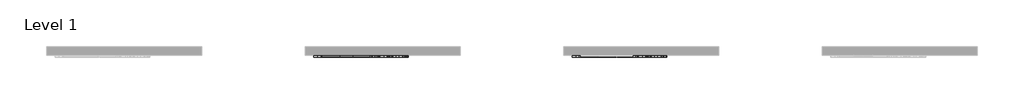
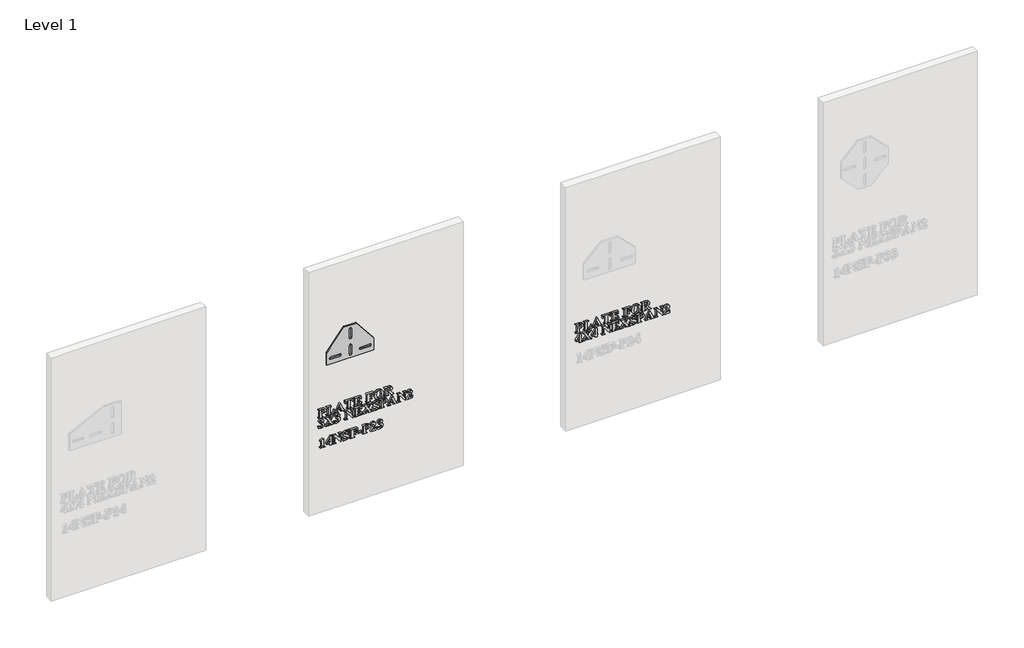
# One storey, part 15 of 21: 4 proxies.
"""IFC4 building model written with IfcOpenShell, lengths in millimetres."""

from ifc_helpers import new_model, si_unit, frame, origin, place, context, project, spatial, polyline, outline, extrude, transform, mapped, element, save
from components import generic_models_c3e818f0

model = new_model("IFC4")

# Units and contexts
model_context = context("Model", 3, world=origin())
ifc_project = project(units=[si_unit("LENGTHUNIT", "METRE", prefix="MILLI")], contexts=[model_context])

# Site, building, storey
site = spatial("IfcSite", under=ifc_project)
building = spatial("IfcBuilding", under=site)
storey = spatial("IfcBuildingStorey", under=building, Name="Level 1", Elevation=0.0)

# Proxies
placement = place(None, origin())
element("IfcBuildingElementProxy", 1, Name="2\"\" Arial", ObjectType="2\"\" Arial", at=placement, inside=storey, context=model_context, shape_type="SweptSolid", body=[
    extrude(outline(polyline([(624.2127681, 23780.7890158), (625.1268914, 23794.043803), (630.022991, 23803.1781105), (638.6586857, 23806.4952699), (648.6032388, 23801.4468164), (652.5782899, 23784.7917676), (652.5782899, 23761.2877195), (650.8054448, 23761.2877195), (650.2029545, 23766.0730163), (648.5963136, 23767.8666369), (643.7140644, 23768.3791), (609.1435847, 23768.3791), (604.2751858, 23767.8666369), (602.6685449, 23766.0937918), (602.0522042, 23761.2877195), (600.2793591, 23761.2877195), (600.2793591, 23787.8803962), (602.0522042, 23787.8803962), (602.6546946, 23783.1089498), (604.2613354, 23781.3014788), (609.1435847, 23780.7890158), (624.2127681, 23780.7890158)]), holes=[polyline([(649.9190223, 23780.7890158), (649.9190223, 23782.5757112), (647.1628021, 23791.1975556), (638.4786311, 23794.0853541), (629.6421063, 23791.1975556), (626.7889337, 23782.9773714), (626.8720358, 23780.7890158), (649.9190223, 23780.7890158)])]), frame((0.0, -15490.3579358, 0.0), z_axis=(0.0, 1.0, 0.0), x_axis=(0.0, 0.0, 1.0)), (0.0, 0.0, 1.0), 12.7),
    extrude(outline(polyline([(619.7806553, 23857.9077782), (619.7806553, 23856.1349331), (610.1269597, 23852.3399365), (605.3416629, 23847.5892656), (603.8250493, 23840.7194908), (603.8250493, 23836.4120312), (604.1713081, 23831.7998638), (605.7848742, 23829.999318), (610.8333277, 23829.5422564), (643.7140644, 23829.5422564), (648.298531, 23829.9162159), (650.0436754, 23831.3289518), (650.8054448, 23834.597635), (650.8054448, 23836.6336368), (652.5782899, 23836.6336368), (652.5782899, 23810.0409601), (650.8054448, 23810.0409601), (650.8054448, 23811.7168528), (650.0990768, 23815.0686381), (648.4439597, 23816.7237552), (643.7140644, 23817.1323406), (609.1435847, 23817.1323406), (604.559118, 23816.7306804), (602.8139736, 23815.2348423), (602.0522042, 23811.7168528), (602.0522042, 23810.0409601), (600.2793591, 23810.0409601), (600.2793591, 23856.1349331), (619.7806553, 23857.9077782)])), frame((0.0, -15490.3579358, 0.0), z_axis=(0.0, 1.0, 0.0), x_axis=(0.0, 0.0, 1.0)), (0.0, 0.0, 1.0), 12.7),
    extrude(outline(polyline([(615.3485426, 23892.8660677), (608.7003734, 23895.7884921), (604.559118, 23897.1735273), (602.869375, 23896.3286558), (602.0522042, 23891.0101205), (600.2793591, 23891.0101205), (600.2793591, 23916.4116669), (602.0522042, 23916.4116669), (603.4095388, 23912.7136228), (610.9025794, 23908.28151), (653.4647125, 23888.6278599), (612.066009, 23869.8052309), (604.3375124, 23865.3384922), (602.0522042, 23860.7193997), (600.2793591, 23860.7193997), (600.2793591, 23878.4894019), (602.0522042, 23878.4894019), (602.9386268, 23873.3647715), (606.0272554, 23871.5919264), (610.0300072, 23872.6722539), (615.3485426, 23875.0822152), (615.3485426, 23892.8660677)]), holes=[polyline([(618.8942328, 23891.3148283), (618.8942328, 23876.6888561), (635.2376487, 23884.0987946), (618.8942328, 23891.3148283)])]), frame((0.0, -15490.3579358, 0.0), z_axis=(0.0, 1.0, 0.0), x_axis=(0.0, 0.0, 1.0)), (0.0, 0.0, 1.0), 12.7),
    extrude(outline(polyline([(652.5782899, 23966.05133), (652.5782899, 23919.9573571), (637.5091065, 23919.9573571), (637.5091065, 23921.7302022), (646.7195908, 23925.8299065), (649.0325997, 23933.2536955), (649.0325997, 23936.7993857), (609.1435847, 23936.7993857), (604.559118, 23936.3977255), (602.8139736, 23934.8741867), (602.0522042, 23931.3700475), (602.0522042, 23929.7080052), (600.2793591, 23929.7080052), (600.2793591, 23956.3006819), (602.0522042, 23956.3006819), (602.0522042, 23954.65249), (602.7585722, 23951.2868543), (604.4136893, 23949.6317372), (609.1435847, 23949.2093015), (649.0325997, 23949.2093015), (649.0325997, 23952.7549917), (648.3123814, 23957.6857172), (644.7874667, 23961.646918), (637.5091065, 23964.2784849), (637.5091065, 23966.05133), (652.5782899, 23966.05133)])), frame((0.0, -15490.3579358, 0.0), z_axis=(0.0, 1.0, 0.0), x_axis=(0.0, 0.0, 1.0)), (0.0, 0.0, 1.0), 12.7),
    extrude(outline(polyline([(649.0325997, 23990.8711616), (649.0325997, 23995.3032744), (648.3400821, 24003.3364788), (644.7320653, 24009.0289737), (636.6226839, 24012.145303), (636.6226839, 24013.9181481), (652.5782899, 24013.9181481), (652.5782899, 23971.3698654), (650.8054448, 23971.3698654), (650.8054448, 23973.045758), (649.7805187, 23976.896156), (647.827619, 23978.2811912), (643.7140644, 23978.4612458), (609.1435847, 23978.4612458), (604.559118, 23978.0595856), (602.8139736, 23976.5637475), (602.0522042, 23973.045758), (602.0522042, 23971.3698654), (600.2793591, 23971.3698654), (600.2793591, 24015.1785302), (616.8859317, 24016.1203541), (606.4427659, 24010.0054235), (602.9386268, 23998.6827604), (602.9386268, 23995.6633836), (603.5549675, 23992.5470543), (605.1339076, 23991.2243456), (610.4039667, 23990.8711616), (625.0991907, 23990.8711616), (624.0950401, 23995.878064), (620.1753904, 23998.9112912), (612.6892749, 24000.6218097), (612.6892749, 24002.3946548), (640.1683741, 24002.3946548), (640.1683741, 24000.6218097), (630.9024884, 23998.1148959), (627.7584584, 23990.8711616), (649.0325997, 23990.8711616)])), frame((0.0, -15490.3579358, 0.0), z_axis=(0.0, 1.0, 0.0), x_axis=(0.0, 0.0, 1.0)), (0.0, 0.0, 1.0), 12.7),
    extrude(outline(polyline([(649.0325997, 24062.6713887), (649.0325997, 24067.1035015), (648.4370346, 24075.6630193), (644.7251401, 24082.0757325), (636.6226839, 24084.8319526), (636.6226839, 24086.6047977), (652.5782899, 24086.6047977), (652.5782899, 24043.1700924), (650.8054448, 24043.1700924), (650.8054448, 24044.8459851), (650.0990768, 24048.1977704), (648.4439597, 24049.8528875), (643.7140644, 24050.2614729), (609.1435847, 24050.2614729), (604.559118, 24049.8598127), (602.8139736, 24048.3639746), (602.0522042, 24044.8459851), (602.0522042, 24043.1700924), (600.2793591, 24043.1700924), (600.2793591, 24069.7627691), (602.0522042, 24069.7627691), (602.0522042, 24068.1007268), (602.7585722, 24064.7558667), (604.4136893, 24063.0938244), (609.1435847, 24062.6713887), (625.0991907, 24062.6713887), (625.0991907, 24064.4442338), (622.6823042, 24071.3555597), (612.6892749, 24075.0813045), (612.6892749, 24076.8541496), (641.0547967, 24076.8541496), (641.0547967, 24075.0813045), (633.6725588, 24073.2253572), (629.7944602, 24069.7419936), (628.6448809, 24064.4442338), (628.6448809, 24062.6713887), (649.0325997, 24062.6713887)])), frame((0.0, -15490.3579358, 0.0), z_axis=(0.0, 1.0, 0.0), x_axis=(0.0, 0.0, 1.0)), (0.0, 0.0, 1.0), 12.7),
    extrude(outline(polyline([(653.4647125, 24119.0561735), (651.8788471, 24108.514324), (646.1794271, 24099.7695577), (637.4606302, 24093.8848892), (626.8166344, 24091.923333), (617.1733265, 24093.4295589), (608.9358294, 24097.9482364), (601.7786598, 24107.1656459), (599.3929366, 24119.5547862), (601.8929252, 24131.9127631), (609.392891, 24141.1197849), (626.8581854, 24146.8815315), (637.4969874, 24144.9494074), (646.2002026, 24139.1530349), (651.884041, 24130.2645712), (653.4647125, 24119.0561735)]), holes=[polyline([(650.8054448, 24119.5132351), (648.6863409, 24126.1267784), (641.4356814, 24130.8497486), (625.9440622, 24132.6987706), (611.8444034, 24130.8843745), (603.9774032, 24125.8151455), (602.0522042, 24119.4439833), (606.5120177, 24110.6213088), (626.2487699, 24106.1060939), (643.4924587, 24109.0285183), (648.9771983, 24113.4502433), (650.8054448, 24119.5132351)])]), frame((0.0, -15490.3579358, 0.0), z_axis=(0.0, 1.0, 0.0), x_axis=(0.0, 0.0, 1.0)), (0.0, 0.0, 1.0), 12.7),
    extrude(outline(polyline([(624.2127681, 24170.8149406), (624.2127681, 24174.249828), (600.2793591, 24191.0364551), (600.2793591, 24207.1582654), (602.0522042, 24207.1582654), (603.3956884, 24203.8895822), (607.7723998, 24200.7455522), (625.4592998, 24188.3356364), (628.9911397, 24195.2885133), (638.395529, 24199.1804624), (646.5326111, 24196.417317), (651.2902072, 24189.2843855), (652.5782899, 24175.4825093), (652.5782899, 24151.3136443), (650.8054448, 24151.3136443), (650.2029545, 24156.0989411), (648.5963136, 24157.8925617), (643.7140644, 24158.4050248), (609.1435847, 24158.4050248), (604.2751858, 24157.8925617), (602.6685449, 24156.1197166), (602.0522042, 24151.3136443), (600.2793591, 24151.3136443), (600.2793591, 24177.906321), (602.0522042, 24177.906321), (602.6546946, 24173.1210242), (604.2613354, 24171.3274036), (609.1435847, 24170.8149406), (624.2127681, 24170.8149406)]), holes=[polyline([(649.9190223, 24170.8149406), (649.9190223, 24174.9423456), (647.0450741, 24183.9727754), (638.160073, 24186.7705466), (631.4288018, 24185.2470078), (627.862336, 24181.0572762), (626.8720358, 24173.0171466), (626.8720358, 24170.8149406), (649.9190223, 24170.8149406)])]), frame((0.0, -15490.3579358, 0.0), z_axis=(0.0, 1.0, 0.0), x_axis=(0.0, 0.0, 1.0)), (0.0, 0.0, 1.0), 12.7),
    extrude(outline(polyline([(564.5485426, 23770.1519451), (558.3782106, 23782.0424727), (548.6206373, 23786.1075511), (542.8796662, 23784.0022975), (540.6151335, 23778.9607692), (543.7314628, 23771.7031846), (547.1524999, 23767.20182), (547.706514, 23764.7364573), (546.2176011, 23761.7101553), (542.6234346, 23760.401297), (537.9004645, 23762.6589044), (535.2965982, 23772.6034575), (536.8114805, 23781.779316), (541.3561274, 23788.8914719), (548.0648919, 23793.4517005), (556.0721269, 23794.9717767), (564.6177943, 23792.1324544), (570.3518402, 23783.8914947), (574.5554222, 23790.2765072), (579.5207736, 23792.312509), (586.4182491, 23788.6767915), (589.3683741, 23779.4455316), (586.9237869, 23769.4940533), (579.105263, 23763.0605646), (584.0498388, 23772.4511036), (581.6883537, 23778.39983), (576.0304847, 23780.7890158), (571.3282901, 23779.5078582), (567.8795523, 23776.4677058), (564.5485426, 23770.1519451)])), frame((0.0, -15490.3579358, 0.0), z_axis=(0.0, 1.0, 0.0), x_axis=(0.0, 0.0, 1.0)), (0.0, 0.0, 1.0), 12.7),
    extrude(outline(polyline([(566.5845444, 23832.5062318), (578.4681468, 23841.9937232), (584.2021927, 23847.0075508), (586.1481672, 23849.9715262), (586.7091065, 23853.6280193), (588.4819516, 23853.6280193), (588.4819516, 23834.1959748), (586.7091065, 23834.1959748), (586.2243441, 23837.6585629), (584.88086, 23839.3760066), (583.0110624, 23839.9715718), (575.9473826, 23835.7333639), (569.5069687, 23830.5810328), (579.146814, 23824.2514217), (584.3406962, 23821.3289974), (586.0304392, 23822.2154199), (586.7091065, 23826.6336823), (588.4819516, 23826.6336823), (588.4819516, 23801.0936324), (586.7091065, 23801.0936324), (585.9334867, 23803.8637029), (584.2021927, 23805.8997047), (579.0775623, 23809.6392999), (559.4377625, 23822.5478284), (546.8616425, 23812.4786222), (539.7425613, 23805.2764389), (537.9558659, 23799.8886518), (536.1830208, 23799.8886518), (536.1830208, 23820.2348195), (537.9558659, 23820.2348195), (538.1774715, 23816.9245853), (539.4655543, 23814.1891407), (541.4046036, 23813.2680922), (547.000146, 23816.8414832), (556.5291885, 23824.459177), (545.781315, 23831.5228568), (540.4627797, 23834.4868322), (538.8422884, 23833.6004096), (537.9558659, 23829.6807599), (536.1830208, 23829.6807599), (536.1830208, 23854.9715034), (537.9558659, 23854.9715034), (539.2993501, 23851.3704118), (545.6428115, 23846.2596318), (566.5845444, 23832.5062318)])), frame((0.0, -15490.3579358, 0.0), z_axis=(0.0, 1.0, 0.0), x_axis=(0.0, 0.0, 1.0)), (0.0, 0.0, 1.0), 12.7),
    extrude(outline(polyline([(564.5485426, 23865.8855812), (558.3782106, 23877.7761087), (548.6206373, 23881.8411872), (542.8796662, 23879.7359336), (540.6151335, 23874.6944053), (543.7314628, 23867.4368206), (547.1524999, 23862.9354561), (547.706514, 23860.4700934), (546.2176011, 23857.4437914), (542.6234346, 23856.1349331), (537.9004645, 23858.3925405), (535.2965982, 23868.3370936), (536.8114805, 23877.512952), (541.3561274, 23884.625108), (548.0648919, 23889.1853366), (556.0721269, 23890.7054127), (564.6177943, 23887.8660905), (570.3518402, 23879.6251308), (574.5554222, 23886.0101433), (579.5207736, 23888.0461451), (586.4182491, 23884.4104276), (589.3683741, 23875.1791677), (586.9237869, 23865.2276894), (579.105263, 23858.7942007), (584.0498388, 23868.1847397), (581.6883537, 23874.1334661), (576.0304847, 23876.5226518), (571.3282901, 23875.2414942), (567.8795523, 23872.2013419), (564.5485426, 23865.8855812)])), frame((0.0, -15490.3579358, 0.0), z_axis=(0.0, 1.0, 0.0), x_axis=(0.0, 0.0, 1.0)), (0.0, 0.0, 1.0), 12.7),
    extrude(outline(polyline([(588.4819516, 23934.61103), (588.4819516, 23916.1900612), (586.7091065, 23916.1900612), (586.1066161, 23919.8534795), (582.955661, 23923.5030473), (545.0472463, 23923.5030473), (539.5971326, 23921.9448827), (537.9558659, 23916.4116669), (536.1830208, 23916.4116669), (536.1830208, 23934.140118), (537.9558659, 23933.0459402), (539.4170781, 23928.8700589), (545.0472463, 23927.0487376), (578.4542964, 23927.0487376), (535.2965982, 23960.8712982), (535.2965982, 23962.5056398), (577.8448809, 23962.5056398), (583.2811442, 23963.1635316), (585.5664524, 23964.9987033), (586.7091065, 23969.5970203), (588.4819516, 23969.5970203), (588.4819516, 23951.8685691), (586.7091065, 23951.8685691), (584.4653494, 23957.6995675), (577.8448809, 23958.9599496), (557.4156111, 23958.9599496), (588.4819516, 23934.61103)])), frame((0.0, -15490.3579358, 0.0), z_axis=(0.0, 1.0, 0.0), x_axis=(0.0, 0.0, 1.0)), (0.0, 0.0, 1.0), 12.7),
    extrude(outline(polyline([(584.9362614, 23993.5304293), (584.9362614, 23997.9625421), (584.2437437, 24005.9957465), (580.6357269, 24011.6882413), (572.5263456, 24014.8045706), (572.5263456, 24016.5774157), (588.4819516, 24016.5774157), (588.4819516, 23974.029133), (586.7091065, 23974.029133), (586.7091065, 23975.7050257), (585.6841804, 23979.5554237), (583.7312807, 23980.9404589), (579.617726, 23981.1205135), (545.0472463, 23981.1205135), (540.4627797, 23980.7188533), (538.7176353, 23979.2230152), (537.9558659, 23975.7050257), (537.9558659, 23974.029133), (536.1830208, 23974.029133), (536.1830208, 24017.8377978), (552.7895933, 24018.7796218), (542.3464276, 24012.6646912), (538.8422884, 24001.3420281), (538.8422884, 23998.3226512), (539.4586291, 23995.2063219), (541.0375693, 23993.8836133), (546.3076284, 23993.5304293), (561.0028523, 23993.5304293), (559.9987018, 23998.5373317), (556.079052, 24001.5705589), (548.5929366, 24003.2810774), (548.5929366, 24005.0539225), (576.0720358, 24005.0539225), (576.0720358, 24003.2810774), (566.80615, 24000.7741636), (563.66212, 23993.5304293), (584.9362614, 23993.5304293)])), frame((0.0, -15490.3579358, 0.0), z_axis=(0.0, 1.0, 0.0), x_axis=(0.0, 0.0, 1.0)), (0.0, 0.0, 1.0), 12.7),
    extrude(outline(polyline([(566.5845444, 24056.7711385), (578.4681468, 24066.25863), (584.2021927, 24071.2724575), (586.1481672, 24074.236433), (586.7091065, 24077.892926), (588.4819516, 24077.892926), (588.4819516, 24058.4608815), (586.7091065, 24058.4608815), (586.2243441, 24061.9234696), (584.88086, 24063.6409134), (583.0110624, 24064.2364785), (575.9473826, 24059.9982707), (569.5069687, 24054.8459395), (579.146814, 24048.5163285), (584.3406962, 24045.5939041), (586.0304392, 24046.4803267), (586.7091065, 24050.8985891), (588.4819516, 24050.8985891), (588.4819516, 24025.3585392), (586.7091065, 24025.3585392), (585.9334867, 24028.1286097), (584.2021927, 24030.1646115), (579.0775623, 24033.9042067), (559.4377625, 24046.8127351), (546.8616425, 24036.7435289), (539.7425613, 24029.5413456), (537.9558659, 24024.1535585), (536.1830208, 24024.1535585), (536.1830208, 24044.4997263), (537.9558659, 24044.4997263), (538.1774715, 24041.189492), (539.4655543, 24038.4540474), (541.4046036, 24037.532999), (547.000146, 24041.1063899), (556.5291885, 24048.7240838), (545.781315, 24055.7877635), (540.4627797, 24058.7517389), (538.8422884, 24057.8653164), (537.9558659, 24053.9456666), (536.1830208, 24053.9456666), (536.1830208, 24079.2364102), (537.9558659, 24079.2364102), (539.2993501, 24075.6353186), (545.6428115, 24070.5245385), (566.5845444, 24056.7711385)])), frame((0.0, -15490.3579358, 0.0), z_axis=(0.0, 1.0, 0.0), x_axis=(0.0, 0.0, 1.0)), (0.0, 0.0, 1.0), 12.7),
    extrude(outline(polyline([(589.3683741, 24118.5160097), (589.3683741, 24116.7431646), (586.4320994, 24115.6351364), (585.8226839, 24114.0007948), (587.0622905, 24110.2404241), (588.7589586, 24105.6905834), (589.3683741, 24100.607504), (585.040139, 24088.6754254), (574.548497, 24083.94553), (567.9418789, 24085.5798716), (562.5056156, 24090.2612907), (556.5984403, 24101.1061167), (552.5541373, 24108.8623141), (549.2854542, 24112.1240721), (545.7259136, 24113.1974744), (540.2896503, 24110.5312815), (537.9558659, 24103.3637242), (542.2702507, 24092.511973), (554.7978944, 24085.7183751), (554.7978944, 24083.94553), (535.2965982, 24083.94553), (535.2965982, 24085.7183751), (537.9697162, 24087.5396965), (538.8422884, 24089.6795759), (537.9835666, 24092.7405038), (535.8575375, 24098.28757), (535.2965982, 24102.9759143), (539.9780173, 24116.0367966), (551.1691021, 24121.1752774), (560.2687837, 24118.5575608), (568.7174987, 24105.8706379), (573.2050128, 24096.7294053), (576.7645534, 24092.8097556), (579.8254813, 24091.923333), (584.6246284, 24094.3471447), (586.7091065, 24100.9260621), (582.5747763, 24110.9398669), (571.639923, 24116.7431646), (571.639923, 24118.5160097), (589.3683741, 24118.5160097)])), frame((0.0, -15490.3579358, 0.0), z_axis=(0.0, 1.0, 0.0), x_axis=(0.0, 0.0, 1.0)), (0.0, 0.0, 1.0), 12.7),
    extrude(outline(polyline([(560.1164298, 24144.2222639), (561.030553, 24157.4770512), (565.9266526, 24166.6113586), (574.5623474, 24169.928518), (584.5069004, 24164.8800645), (588.4819516, 24148.2250157), (588.4819516, 24124.7209676), (586.7091065, 24124.7209676), (586.1066161, 24129.5062644), (584.4999753, 24131.299885), (579.617726, 24131.8123481), (545.0472463, 24131.8123481), (540.1788474, 24131.299885), (538.5722066, 24129.5270399), (537.9558659, 24124.7209676), (536.1830208, 24124.7209676), (536.1830208, 24151.3136443), (537.9558659, 24151.3136443), (538.5583562, 24146.5421979), (540.1649971, 24144.7347269), (545.0472463, 24144.2222639), (560.1164298, 24144.2222639)]), holes=[polyline([(585.8226839, 24144.2222639), (585.8226839, 24146.0089593), (583.0664638, 24154.6308037), (574.3822928, 24157.5186022), (565.5457679, 24154.6308037), (562.6925953, 24146.4106195), (562.7756975, 24144.2222639), (585.8226839, 24144.2222639)])]), frame((0.0, -15490.3579358, 0.0), z_axis=(0.0, 1.0, 0.0), x_axis=(0.0, 0.0, 1.0)), (0.0, 0.0, 1.0), 12.7),
    extrude(outline(polyline([(551.2522042, 24204.000385), (544.604035, 24206.9228094), (540.4627797, 24208.3078446), (538.7730367, 24207.4629731), (537.9558659, 24202.1444378), (536.1830208, 24202.1444378), (536.1830208, 24227.5459842), (537.9558659, 24227.5459842), (539.3132004, 24223.8479401), (546.8062411, 24219.4158273), (589.3683741, 24199.7621772), (547.9696707, 24180.9395482), (540.241174, 24176.4728095), (537.9558659, 24171.853717), (536.1830208, 24171.853717), (536.1830208, 24189.6237192), (537.9558659, 24189.6237192), (538.8422884, 24184.4990888), (541.930917, 24182.7262437), (545.9336689, 24183.8065711), (551.2522042, 24186.2165325), (551.2522042, 24204.000385)]), holes=[polyline([(554.7978944, 24202.4491455), (554.7978944, 24187.8231734), (571.1413103, 24195.2331119), (554.7978944, 24202.4491455)])]), frame((0.0, -15490.3579358, 0.0), z_axis=(0.0, 1.0, 0.0), x_axis=(0.0, 0.0, 1.0)), (0.0, 0.0, 1.0), 12.7),
    extrude(outline(polyline([(588.4819516, 24247.5181924), (588.4819516, 24229.0972236), (586.7091065, 24229.0972236), (586.1066161, 24232.7606419), (582.955661, 24236.4102097), (545.0472463, 24236.4102097), (539.5971326, 24234.8520451), (537.9558659, 24229.3188293), (536.1830208, 24229.3188293), (536.1830208, 24247.0472804), (537.9558659, 24245.9531026), (539.4170781, 24241.7772213), (545.0472463, 24239.9558999), (578.4542964, 24239.9558999), (535.2965982, 24273.7784606), (535.2965982, 24275.4128022), (577.8448809, 24275.4128022), (583.2811442, 24276.0706939), (585.5664524, 24277.9058656), (586.7091065, 24282.5041827), (588.4819516, 24282.5041827), (588.4819516, 24264.7757315), (586.7091065, 24264.7757315), (584.4653494, 24270.6067299), (577.8448809, 24271.867112), (557.4156111, 24271.867112), (588.4819516, 24247.5181924)])), frame((0.0, -15490.3579358, 0.0), z_axis=(0.0, 1.0, 0.0), x_axis=(0.0, 0.0, 1.0)), (0.0, 0.0, 1.0), 12.7),
    extrude(outline(polyline([(536.1830208, 24316.5899), (551.2522042, 24318.2103913), (548.1635756, 24316.1120629), (547.1247992, 24314.076061), (546.8200914, 24308.7228998), (546.8200914, 24297.5595158), (566.3906394, 24314.2768912), (576.6260499, 24317.0746624), (582.5609259, 24315.1840892), (587.5470528, 24309.9555812), (589.3683741, 24302.5733433), (585.864235, 24292.5803141), (574.548497, 24287.5595613), (579.0152357, 24291.7285174), (580.5041486, 24297.3102094), (577.8241054, 24303.7852492), (571.0997593, 24306.4375917), (559.7286199, 24303.3351127), (536.1830208, 24285.1634503), (536.1830208, 24316.5899)])), frame((0.0, -15490.3579358, 0.0), z_axis=(0.0, 1.0, 0.0), x_axis=(0.0, 0.0, 1.0)), (0.0, 0.0, 1.0), 12.7),
])
element("IfcBuildingElementProxy", 2, Name="2\"\" Arial", ObjectType="2\"\" Arial", at=placement, inside=storey, context=model_context, shape_type="SweptSolid", body=[
    extrude(outline(polyline([(463.8692305, 23790.9409375), (455.0050049, 23771.1834097), (453.2321598, 23771.8482267), (454.4648412, 23776.4049926), (453.827725, 23778.4825455), (452.3111114, 23779.7152269), (447.9136245, 23780.0476353), (421.3209478, 23780.0476353), (415.2544934, 23779.5282471), (413.2046413, 23777.5407215), (412.4567222, 23771.1834097), (410.6838771, 23771.1834097), (410.6838771, 23799.5489316), (412.4567222, 23798.3162502), (413.273893, 23793.8425863), (415.3791466, 23792.0074146), (421.3209478, 23791.5711285), (463.8692305, 23790.9409375)])), frame((0.0, -15490.3579358, 0.0), z_axis=(0.0, 1.0, 0.0), x_axis=(0.0, 0.0, 1.0)), (0.0, 0.0, 1.0), 12.7),
    extrude(outline(polyline([(430.1851733, 23808.4131571), (422.2073703, 23808.4131571), (422.2073703, 23827.0280308), (410.6838771, 23827.0280308), (410.6838771, 23838.551524), (422.2073703, 23838.551524), (422.2073703, 23842.9836368), (430.1851733, 23842.9836368), (430.1851733, 23838.551524), (463.8692305, 23838.551524), (463.8692305, 23833.440744), (430.1851733, 23808.4131571)]), holes=[polyline([(430.1851733, 23811.1001255), (451.6116686, 23827.0280308), (430.1851733, 23827.0280308), (430.1851733, 23811.1001255)])]), frame((0.0, -15490.3579358, 0.0), z_axis=(0.0, 1.0, 0.0), x_axis=(0.0, 0.0, 1.0)), (0.0, 0.0, 1.0), 12.7),
    extrude(outline(polyline([(462.9828079, 23865.6151127), (462.9828079, 23847.194144), (461.2099628, 23847.194144), (460.6074725, 23850.8575622), (457.4565173, 23854.50713), (419.5481027, 23854.50713), (414.097989, 23852.9489654), (412.4567222, 23847.4157496), (410.6838771, 23847.4157496), (410.6838771, 23865.1442007), (412.4567222, 23864.0500229), (413.9179344, 23859.8741416), (419.5481027, 23858.0528203), (452.9551528, 23858.0528203), (409.7974546, 23891.8753809), (409.7974546, 23893.5097225), (452.3457373, 23893.5097225), (457.7820006, 23894.1676143), (460.0673087, 23896.002786), (461.2099628, 23900.601103), (462.9828079, 23900.601103), (462.9828079, 23882.8726518), (461.2099628, 23882.8726518), (458.9662057, 23888.7036502), (452.3457373, 23889.9640323), (431.9164674, 23889.9640323), (462.9828079, 23865.6151127)])), frame((0.0, -15490.3579358, 0.0), z_axis=(0.0, 1.0, 0.0), x_axis=(0.0, 0.0, 1.0)), (0.0, 0.0, 1.0), 12.7),
    extrude(outline(polyline([(463.8692305, 23941.3765406), (463.8692305, 23939.6036955), (460.9329558, 23938.4956673), (460.3235403, 23936.8613257), (461.5631468, 23933.100955), (463.259815, 23928.5511142), (463.8692305, 23923.4680349), (459.5409954, 23911.5359562), (449.0493534, 23906.8060609), (442.4427353, 23908.4404025), (437.0064719, 23913.1218216), (431.0992966, 23923.9666475), (427.0549937, 23931.7228449), (423.7863105, 23934.9846029), (420.2267699, 23936.0580052), (414.7905066, 23933.3918124), (412.4567222, 23926.224255), (416.771107, 23915.3725039), (429.2987508, 23908.578906), (429.2987508, 23906.8060609), (409.7974546, 23906.8060609), (409.7974546, 23908.578906), (412.4705726, 23910.4002273), (413.3431448, 23912.5401068), (412.4844229, 23915.6010347), (410.3583938, 23921.1481008), (409.7974546, 23925.8364451), (414.4788737, 23938.8973275), (425.6699585, 23944.0358082), (434.76964, 23941.4180916), (443.218355, 23928.7311688), (447.7058692, 23919.5899362), (451.2654098, 23915.6702864), (454.3263377, 23914.7838639), (459.1254848, 23917.2076756), (461.2099628, 23923.786593), (457.0756326, 23933.8003978), (446.1407794, 23939.6036955), (446.1407794, 23941.3765406), (463.8692305, 23941.3765406)])), frame((0.0, -15490.3579358, 0.0), z_axis=(0.0, 1.0, 0.0), x_axis=(0.0, 0.0, 1.0)), (0.0, 0.0, 1.0), 12.7),
    extrude(outline(polyline([(459.4371177, 23967.9692173), (459.4371177, 23972.40133), (458.8415526, 23980.9608478), (455.1296581, 23987.373561), (447.0272019, 23990.1297812), (447.0272019, 23991.9026263), (462.9828079, 23991.9026263), (462.9828079, 23948.467921), (461.2099628, 23948.467921), (461.2099628, 23950.1438137), (460.5035948, 23953.495599), (458.8484777, 23955.1507161), (454.1185824, 23955.5593015), (419.5481027, 23955.5593015), (414.963636, 23955.1576412), (413.2184916, 23953.6618032), (412.4567222, 23950.1438137), (412.4567222, 23948.467921), (410.6838771, 23948.467921), (410.6838771, 23975.0605977), (412.4567222, 23975.0605977), (412.4567222, 23973.3985554), (413.1630902, 23970.0536953), (414.8182073, 23968.391653), (419.5481027, 23967.9692173), (435.5037087, 23967.9692173), (435.5037087, 23969.7420624), (433.0868222, 23976.6533882), (423.0937929, 23980.379133), (423.0937929, 23982.1519782), (451.4593147, 23982.1519782), (451.4593147, 23980.379133), (444.0770768, 23978.5231858), (440.1989782, 23975.0398222), (439.0493989, 23969.7420624), (439.0493989, 23967.9692173), (459.4371177, 23967.9692173)])), frame((0.0, -15490.3579358, 0.0), z_axis=(0.0, 1.0, 0.0), x_axis=(0.0, 0.0, 1.0)), (0.0, 0.0, 1.0), 12.7),
    extrude(outline(polyline([(24017.6088804, -15490.3579358), (23995.4483165, -15490.3579358), (23995.4483165, -15477.6579358), (24017.6088804, -15477.6579358), (24017.6088804, -15490.3579358)])), frame((0.0, 0.0, 424.866638), z_axis=(0.0, 0.0, 1.0), x_axis=(1.0, 0.0, 0.0)), (0.0, 0.0, 1.0), 7.977803),
    extrude(outline(polyline([(434.6172861, 24041.5422894), (435.5314094, 24054.7970767), (440.427509, 24063.9313842), (449.0632037, 24067.2485436), (459.0077568, 24062.2000901), (462.9828079, 24045.5450413), (462.9828079, 24022.0409932), (461.2099628, 24022.0409932), (460.6074725, 24026.82629), (459.0008316, 24028.6199106), (454.1185824, 24029.1323736), (419.5481027, 24029.1323736), (414.6797038, 24028.6199106), (413.0730629, 24026.8470655), (412.4567222, 24022.0409932), (410.6838771, 24022.0409932), (410.6838771, 24048.6336699), (412.4567222, 24048.6336699), (413.0592126, 24043.8622235), (414.6658534, 24042.0547525), (419.5481027, 24041.5422894), (434.6172861, 24041.5422894)]), holes=[polyline([(460.3235403, 24041.5422894), (460.3235403, 24043.3289849), (457.5673201, 24051.9508293), (448.8831491, 24054.8386278), (440.0466243, 24051.9508293), (437.1934517, 24043.7306451), (437.2765538, 24041.5422894), (460.3235403, 24041.5422894)])]), frame((0.0, -15490.3579358, 0.0), z_axis=(0.0, 1.0, 0.0), x_axis=(0.0, 0.0, 1.0)), (0.0, 0.0, 1.0), 12.7),
    extrude(outline(polyline([(410.6838771, 24100.4478384), (425.7530606, 24102.0683296), (422.664432, 24099.9700012), (421.6256555, 24097.9339994), (421.3209478, 24092.5808382), (421.3209478, 24081.4174541), (440.8914958, 24098.1348295), (451.1269062, 24100.9326007), (457.0617823, 24099.0420276), (462.0479091, 24093.8135196), (463.8692305, 24086.4312817), (460.3650913, 24076.4382524), (449.0493534, 24071.4174997), (453.516092, 24075.5864557), (455.0050049, 24081.1681478), (452.3249617, 24087.6431875), (445.6006156, 24090.29553), (434.2294763, 24087.1930511), (410.6838771, 24069.0213887), (410.6838771, 24100.4478384)])), frame((0.0, -15490.3579358, 0.0), z_axis=(0.0, 1.0, 0.0), x_axis=(0.0, 0.0, 1.0)), (0.0, 0.0, 1.0), 12.7),
    extrude(outline(polyline([(439.0493989, 24118.6610518), (432.8790669, 24130.5515794), (423.1214936, 24134.6166578), (417.3805225, 24132.5114043), (415.1159899, 24127.469876), (418.2323192, 24120.2122913), (421.6533562, 24115.7109268), (422.2073703, 24113.245564), (420.7184575, 24110.219262), (417.124291, 24108.9104037), (412.4013208, 24111.1680112), (409.7974546, 24121.1125642), (411.3123369, 24130.2884227), (415.8569837, 24137.4005787), (422.5657482, 24141.9608072), (430.5729832, 24143.4808834), (439.1186507, 24140.6415612), (444.8526966, 24132.4006015), (449.0562786, 24138.7856139), (454.0216299, 24140.8216157), (460.9191054, 24137.1858982), (463.8692305, 24127.9546383), (461.4246433, 24118.0031601), (453.6061193, 24111.5696714), (458.5506952, 24120.9602103), (456.1892101, 24126.9089367), (450.5313411, 24129.2981225), (445.8291464, 24128.0169649), (442.3804087, 24124.9768125), (439.0493989, 24118.6610518)])), frame((0.0, -15490.3579358, 0.0), z_axis=(0.0, 1.0, 0.0), x_axis=(0.0, 0.0, 1.0)), (0.0, 0.0, 1.0), 12.7),
])
element("IfcBuildingElementProxy", 3, Name="2\"\" Arial", ObjectType="2\"\" Arial", at=placement, inside=storey, context=model_context, shape_type="SweptSolid", body=[
    extrude(outline(polyline([(624.2127681, 25304.7890158), (625.1268914, 25318.043803), (630.022991, 25327.1781105), (638.6586857, 25330.4952699), (648.6032388, 25325.4468164), (652.5782899, 25308.7917676), (652.5782899, 25285.2877195), (650.8054448, 25285.2877195), (650.2029545, 25290.0730163), (648.5963136, 25291.8666369), (643.7140644, 25292.3791), (609.1435847, 25292.3791), (604.2751858, 25291.8666369), (602.6685449, 25290.0937918), (602.0522042, 25285.2877195), (600.2793591, 25285.2877195), (600.2793591, 25311.8803962), (602.0522042, 25311.8803962), (602.6546946, 25307.1089498), (604.2613354, 25305.3014788), (609.1435847, 25304.7890158), (624.2127681, 25304.7890158)]), holes=[polyline([(649.9190223, 25304.7890158), (649.9190223, 25306.5757112), (647.1628021, 25315.1975556), (638.4786311, 25318.0853541), (629.6421063, 25315.1975556), (626.7889337, 25306.9773714), (626.8720358, 25304.7890158), (649.9190223, 25304.7890158)])]), frame((0.0, -15490.3579358, 0.0), z_axis=(0.0, 1.0, 0.0), x_axis=(0.0, 0.0, 1.0)), (0.0, 0.0, 1.0), 12.7),
    extrude(outline(polyline([(619.7806553, 25381.9077782), (619.7806553, 25380.1349331), (610.1269597, 25376.3399365), (605.3416629, 25371.5892656), (603.8250493, 25364.7194908), (603.8250493, 25360.4120312), (604.1713081, 25355.7998638), (605.7848742, 25353.999318), (610.8333277, 25353.5422564), (643.7140644, 25353.5422564), (648.298531, 25353.9162159), (650.0436754, 25355.3289518), (650.8054448, 25358.597635), (650.8054448, 25360.6336368), (652.5782899, 25360.6336368), (652.5782899, 25334.0409601), (650.8054448, 25334.0409601), (650.8054448, 25335.7168528), (650.0990768, 25339.0686381), (648.4439597, 25340.7237552), (643.7140644, 25341.1323406), (609.1435847, 25341.1323406), (604.559118, 25340.7306804), (602.8139736, 25339.2348423), (602.0522042, 25335.7168528), (602.0522042, 25334.0409601), (600.2793591, 25334.0409601), (600.2793591, 25380.1349331), (619.7806553, 25381.9077782)])), frame((0.0, -15490.3579358, 0.0), z_axis=(0.0, 1.0, 0.0), x_axis=(0.0, 0.0, 1.0)), (0.0, 0.0, 1.0), 12.7),
    extrude(outline(polyline([(615.3485426, 25416.8660677), (608.7003734, 25419.7884921), (604.559118, 25421.1735273), (602.869375, 25420.3286558), (602.0522042, 25415.0101205), (600.2793591, 25415.0101205), (600.2793591, 25440.4116669), (602.0522042, 25440.4116669), (603.4095388, 25436.7136228), (610.9025794, 25432.28151), (653.4647125, 25412.6278599), (612.066009, 25393.8052309), (604.3375124, 25389.3384922), (602.0522042, 25384.7193997), (600.2793591, 25384.7193997), (600.2793591, 25402.4894019), (602.0522042, 25402.4894019), (602.9386268, 25397.3647715), (606.0272554, 25395.5919264), (610.0300072, 25396.6722539), (615.3485426, 25399.0822152), (615.3485426, 25416.8660677)]), holes=[polyline([(618.8942328, 25415.3148283), (618.8942328, 25400.6888561), (635.2376487, 25408.0987946), (618.8942328, 25415.3148283)])]), frame((0.0, -15490.3579358, 0.0), z_axis=(0.0, 1.0, 0.0), x_axis=(0.0, 0.0, 1.0)), (0.0, 0.0, 1.0), 12.7),
    extrude(outline(polyline([(652.5782899, 25490.05133), (652.5782899, 25443.9573571), (637.5091065, 25443.9573571), (637.5091065, 25445.7302022), (646.7195908, 25449.8299065), (649.0325997, 25457.2536955), (649.0325997, 25460.7993857), (609.1435847, 25460.7993857), (604.559118, 25460.3977255), (602.8139736, 25458.8741867), (602.0522042, 25455.3700475), (602.0522042, 25453.7080052), (600.2793591, 25453.7080052), (600.2793591, 25480.3006819), (602.0522042, 25480.3006819), (602.0522042, 25478.65249), (602.7585722, 25475.2868543), (604.4136893, 25473.6317372), (609.1435847, 25473.2093015), (649.0325997, 25473.2093015), (649.0325997, 25476.7549917), (648.3123814, 25481.6857172), (644.7874667, 25485.646918), (637.5091065, 25488.2784849), (637.5091065, 25490.05133), (652.5782899, 25490.05133)])), frame((0.0, -15490.3579358, 0.0), z_axis=(0.0, 1.0, 0.0), x_axis=(0.0, 0.0, 1.0)), (0.0, 0.0, 1.0), 12.7),
    extrude(outline(polyline([(649.0325997, 25514.8711616), (649.0325997, 25519.3032744), (648.3400821, 25527.3364788), (644.7320653, 25533.0289737), (636.6226839, 25536.145303), (636.6226839, 25537.9181481), (652.5782899, 25537.9181481), (652.5782899, 25495.3698654), (650.8054448, 25495.3698654), (650.8054448, 25497.045758), (649.7805187, 25500.896156), (647.827619, 25502.2811912), (643.7140644, 25502.4612458), (609.1435847, 25502.4612458), (604.559118, 25502.0595856), (602.8139736, 25500.5637475), (602.0522042, 25497.045758), (602.0522042, 25495.3698654), (600.2793591, 25495.3698654), (600.2793591, 25539.1785302), (616.8859317, 25540.1203541), (606.4427659, 25534.0054235), (602.9386268, 25522.6827604), (602.9386268, 25519.6633836), (603.5549675, 25516.5470543), (605.1339076, 25515.2243456), (610.4039667, 25514.8711616), (625.0991907, 25514.8711616), (624.0950401, 25519.878064), (620.1753904, 25522.9112912), (612.6892749, 25524.6218097), (612.6892749, 25526.3946548), (640.1683741, 25526.3946548), (640.1683741, 25524.6218097), (630.9024884, 25522.1148959), (627.7584584, 25514.8711616), (649.0325997, 25514.8711616)])), frame((0.0, -15490.3579358, 0.0), z_axis=(0.0, 1.0, 0.0), x_axis=(0.0, 0.0, 1.0)), (0.0, 0.0, 1.0), 12.7),
    extrude(outline(polyline([(649.0325997, 25586.6713887), (649.0325997, 25591.1035015), (648.4370346, 25599.6630193), (644.7251401, 25606.0757325), (636.6226839, 25608.8319526), (636.6226839, 25610.6047977), (652.5782899, 25610.6047977), (652.5782899, 25567.1700924), (650.8054448, 25567.1700924), (650.8054448, 25568.8459851), (650.0990768, 25572.1977704), (648.4439597, 25573.8528875), (643.7140644, 25574.2614729), (609.1435847, 25574.2614729), (604.559118, 25573.8598127), (602.8139736, 25572.3639746), (602.0522042, 25568.8459851), (602.0522042, 25567.1700924), (600.2793591, 25567.1700924), (600.2793591, 25593.7627691), (602.0522042, 25593.7627691), (602.0522042, 25592.1007268), (602.7585722, 25588.7558667), (604.4136893, 25587.0938244), (609.1435847, 25586.6713887), (625.0991907, 25586.6713887), (625.0991907, 25588.4442338), (622.6823042, 25595.3555597), (612.6892749, 25599.0813045), (612.6892749, 25600.8541496), (641.0547967, 25600.8541496), (641.0547967, 25599.0813045), (633.6725588, 25597.2253572), (629.7944602, 25593.7419936), (628.6448809, 25588.4442338), (628.6448809, 25586.6713887), (649.0325997, 25586.6713887)])), frame((0.0, -15490.3579358, 0.0), z_axis=(0.0, 1.0, 0.0), x_axis=(0.0, 0.0, 1.0)), (0.0, 0.0, 1.0), 12.7),
    extrude(outline(polyline([(653.4647125, 25643.0561735), (651.8788471, 25632.514324), (646.1794271, 25623.7695577), (637.4606302, 25617.8848892), (626.8166344, 25615.923333), (617.1733265, 25617.4295589), (608.9358294, 25621.9482364), (601.7786598, 25631.1656459), (599.3929366, 25643.5547862), (601.8929252, 25655.9127631), (609.392891, 25665.1197849), (626.8581854, 25670.8815315), (637.4969874, 25668.9494074), (646.2002026, 25663.1530349), (651.884041, 25654.2645712), (653.4647125, 25643.0561735)]), holes=[polyline([(650.8054448, 25643.5132351), (648.6863409, 25650.1267784), (641.4356814, 25654.8497486), (625.9440622, 25656.6987706), (611.8444034, 25654.8843745), (603.9774032, 25649.8151455), (602.0522042, 25643.4439833), (606.5120177, 25634.6213088), (626.2487699, 25630.1060939), (643.4924587, 25633.0285183), (648.9771983, 25637.4502433), (650.8054448, 25643.5132351)])]), frame((0.0, -15490.3579358, 0.0), z_axis=(0.0, 1.0, 0.0), x_axis=(0.0, 0.0, 1.0)), (0.0, 0.0, 1.0), 12.7),
    extrude(outline(polyline([(624.2127681, 25694.8149406), (624.2127681, 25698.249828), (600.2793591, 25715.0364551), (600.2793591, 25731.1582654), (602.0522042, 25731.1582654), (603.3956884, 25727.8895822), (607.7723998, 25724.7455522), (625.4592998, 25712.3356364), (628.9911397, 25719.2885133), (638.395529, 25723.1804624), (646.5326111, 25720.417317), (651.2902072, 25713.2843855), (652.5782899, 25699.4825093), (652.5782899, 25675.3136443), (650.8054448, 25675.3136443), (650.2029545, 25680.0989411), (648.5963136, 25681.8925617), (643.7140644, 25682.4050248), (609.1435847, 25682.4050248), (604.2751858, 25681.8925617), (602.6685449, 25680.1197166), (602.0522042, 25675.3136443), (600.2793591, 25675.3136443), (600.2793591, 25701.906321), (602.0522042, 25701.906321), (602.6546946, 25697.1210242), (604.2613354, 25695.3274036), (609.1435847, 25694.8149406), (624.2127681, 25694.8149406)]), holes=[polyline([(649.9190223, 25694.8149406), (649.9190223, 25698.9423456), (647.0450741, 25707.9727754), (638.160073, 25710.7705466), (631.4288018, 25709.2470078), (627.862336, 25705.0572762), (626.8720358, 25697.0171466), (626.8720358, 25694.8149406), (649.9190223, 25694.8149406)])]), frame((0.0, -15490.3579358, 0.0), z_axis=(0.0, 1.0, 0.0), x_axis=(0.0, 0.0, 1.0)), (0.0, 0.0, 1.0), 12.7),
    extrude(outline(polyline([(555.684317, 25286.1741421), (547.706514, 25286.1741421), (547.706514, 25304.7890158), (536.1830208, 25304.7890158), (536.1830208, 25316.312509), (547.706514, 25316.312509), (547.706514, 25320.7446218), (555.684317, 25320.7446218), (555.684317, 25316.312509), (589.3683741, 25316.312509), (589.3683741, 25311.2017289), (555.684317, 25286.1741421)]), holes=[polyline([(555.684317, 25288.8611105), (577.1108122, 25304.7890158), (555.684317, 25304.7890158), (555.684317, 25288.8611105)])]), frame((0.0, -15490.3579358, 0.0), z_axis=(0.0, 1.0, 0.0), x_axis=(0.0, 0.0, 1.0)), (0.0, 0.0, 1.0), 12.7),
    extrude(outline(polyline([(566.5845444, 25356.5062318), (578.4681468, 25365.9937232), (584.2021927, 25371.0075508), (586.1481672, 25373.9715262), (586.7091065, 25377.6280193), (588.4819516, 25377.6280193), (588.4819516, 25358.1959748), (586.7091065, 25358.1959748), (586.2243441, 25361.6585629), (584.88086, 25363.3760066), (583.0110624, 25363.9715718), (575.9473826, 25359.7333639), (569.5069687, 25354.5810328), (579.146814, 25348.2514217), (584.3406962, 25345.3289974), (586.0304392, 25346.2154199), (586.7091065, 25350.6336823), (588.4819516, 25350.6336823), (588.4819516, 25325.0936324), (586.7091065, 25325.0936324), (585.9334867, 25327.8637029), (584.2021927, 25329.8997047), (579.0775623, 25333.6392999), (559.4377625, 25346.5478284), (546.8616425, 25336.4786222), (539.7425613, 25329.2764389), (537.9558659, 25323.8886518), (536.1830208, 25323.8886518), (536.1830208, 25344.2348195), (537.9558659, 25344.2348195), (538.1774715, 25340.9245853), (539.4655543, 25338.1891407), (541.4046036, 25337.2680922), (547.000146, 25340.8414832), (556.5291885, 25348.459177), (545.781315, 25355.5228568), (540.4627797, 25358.4868322), (538.8422884, 25357.6004096), (537.9558659, 25353.6807599), (536.1830208, 25353.6807599), (536.1830208, 25378.9715034), (537.9558659, 25378.9715034), (539.2993501, 25375.3704118), (545.6428115, 25370.2596318), (566.5845444, 25356.5062318)])), frame((0.0, -15490.3579358, 0.0), z_axis=(0.0, 1.0, 0.0), x_axis=(0.0, 0.0, 1.0)), (0.0, 0.0, 1.0), 12.7),
    extrude(outline(polyline([(555.684317, 25381.9077782), (547.706514, 25381.9077782), (547.706514, 25400.5226518), (536.1830208, 25400.5226518), (536.1830208, 25412.0461451), (547.706514, 25412.0461451), (547.706514, 25416.4782579), (555.684317, 25416.4782579), (555.684317, 25412.0461451), (589.3683741, 25412.0461451), (589.3683741, 25406.935365), (555.684317, 25381.9077782)]), holes=[polyline([(555.684317, 25384.5947465), (577.1108122, 25400.5226518), (555.684317, 25400.5226518), (555.684317, 25384.5947465)])]), frame((0.0, -15490.3579358, 0.0), z_axis=(0.0, 1.0, 0.0), x_axis=(0.0, 0.0, 1.0)), (0.0, 0.0, 1.0), 12.7),
    extrude(outline(polyline([(588.4819516, 25458.61103), (588.4819516, 25440.1900612), (586.7091065, 25440.1900612), (586.1066161, 25443.8534795), (582.955661, 25447.5030473), (545.0472463, 25447.5030473), (539.5971326, 25445.9448827), (537.9558659, 25440.4116669), (536.1830208, 25440.4116669), (536.1830208, 25458.140118), (537.9558659, 25457.0459402), (539.4170781, 25452.8700589), (545.0472463, 25451.0487376), (578.4542964, 25451.0487376), (535.2965982, 25484.8712982), (535.2965982, 25486.5056398), (577.8448809, 25486.5056398), (583.2811442, 25487.1635316), (585.5664524, 25488.9987033), (586.7091065, 25493.5970203), (588.4819516, 25493.5970203), (588.4819516, 25475.8685691), (586.7091065, 25475.8685691), (584.4653494, 25481.6995675), (577.8448809, 25482.9599496), (557.4156111, 25482.9599496), (588.4819516, 25458.61103)])), frame((0.0, -15490.3579358, 0.0), z_axis=(0.0, 1.0, 0.0), x_axis=(0.0, 0.0, 1.0)), (0.0, 0.0, 1.0), 12.7),
    extrude(outline(polyline([(584.9362614, 25517.5304293), (584.9362614, 25521.9625421), (584.2437437, 25529.9957465), (580.6357269, 25535.6882413), (572.5263456, 25538.8045706), (572.5263456, 25540.5774157), (588.4819516, 25540.5774157), (588.4819516, 25498.029133), (586.7091065, 25498.029133), (586.7091065, 25499.7050257), (585.6841804, 25503.5554237), (583.7312807, 25504.9404589), (579.617726, 25505.1205135), (545.0472463, 25505.1205135), (540.4627797, 25504.7188533), (538.7176353, 25503.2230152), (537.9558659, 25499.7050257), (537.9558659, 25498.029133), (536.1830208, 25498.029133), (536.1830208, 25541.8377978), (552.7895933, 25542.7796218), (542.3464276, 25536.6646912), (538.8422884, 25525.3420281), (538.8422884, 25522.3226512), (539.4586291, 25519.2063219), (541.0375693, 25517.8836133), (546.3076284, 25517.5304293), (561.0028523, 25517.5304293), (559.9987018, 25522.5373317), (556.079052, 25525.5705589), (548.5929366, 25527.2810774), (548.5929366, 25529.0539225), (576.0720358, 25529.0539225), (576.0720358, 25527.2810774), (566.80615, 25524.7741636), (563.66212, 25517.5304293), (584.9362614, 25517.5304293)])), frame((0.0, -15490.3579358, 0.0), z_axis=(0.0, 1.0, 0.0), x_axis=(0.0, 0.0, 1.0)), (0.0, 0.0, 1.0), 12.7),
    extrude(outline(polyline([(566.5845444, 25580.7711385), (578.4681468, 25590.25863), (584.2021927, 25595.2724575), (586.1481672, 25598.236433), (586.7091065, 25601.892926), (588.4819516, 25601.892926), (588.4819516, 25582.4608815), (586.7091065, 25582.4608815), (586.2243441, 25585.9234696), (584.88086, 25587.6409134), (583.0110624, 25588.2364785), (575.9473826, 25583.9982707), (569.5069687, 25578.8459395), (579.146814, 25572.5163285), (584.3406962, 25569.5939041), (586.0304392, 25570.4803267), (586.7091065, 25574.8985891), (588.4819516, 25574.8985891), (588.4819516, 25549.3585392), (586.7091065, 25549.3585392), (585.9334867, 25552.1286097), (584.2021927, 25554.1646115), (579.0775623, 25557.9042067), (559.4377625, 25570.8127351), (546.8616425, 25560.7435289), (539.7425613, 25553.5413456), (537.9558659, 25548.1535585), (536.1830208, 25548.1535585), (536.1830208, 25568.4997263), (537.9558659, 25568.4997263), (538.1774715, 25565.189492), (539.4655543, 25562.4540474), (541.4046036, 25561.532999), (547.000146, 25565.1063899), (556.5291885, 25572.7240838), (545.781315, 25579.7877635), (540.4627797, 25582.7517389), (538.8422884, 25581.8653164), (537.9558659, 25577.9456666), (536.1830208, 25577.9456666), (536.1830208, 25603.2364102), (537.9558659, 25603.2364102), (539.2993501, 25599.6353186), (545.6428115, 25594.5245385), (566.5845444, 25580.7711385)])), frame((0.0, -15490.3579358, 0.0), z_axis=(0.0, 1.0, 0.0), x_axis=(0.0, 0.0, 1.0)), (0.0, 0.0, 1.0), 12.7),
    extrude(outline(polyline([(589.3683741, 25642.5160097), (589.3683741, 25640.7431646), (586.4320994, 25639.6351364), (585.8226839, 25638.0007948), (587.0622905, 25634.2404241), (588.7589586, 25629.6905834), (589.3683741, 25624.607504), (585.040139, 25612.6754254), (574.548497, 25607.94553), (567.9418789, 25609.5798716), (562.5056156, 25614.2612907), (556.5984403, 25625.1061167), (552.5541373, 25632.8623141), (549.2854542, 25636.1240721), (545.7259136, 25637.1974744), (540.2896503, 25634.5312815), (537.9558659, 25627.3637242), (542.2702507, 25616.511973), (554.7978944, 25609.7183751), (554.7978944, 25607.94553), (535.2965982, 25607.94553), (535.2965982, 25609.7183751), (537.9697162, 25611.5396965), (538.8422884, 25613.6795759), (537.9835666, 25616.7405038), (535.8575375, 25622.28757), (535.2965982, 25626.9759143), (539.9780173, 25640.0367966), (551.1691021, 25645.1752774), (560.2687837, 25642.5575608), (568.7174987, 25629.8706379), (573.2050128, 25620.7294053), (576.7645534, 25616.8097556), (579.8254813, 25615.923333), (584.6246284, 25618.3471447), (586.7091065, 25624.9260621), (582.5747763, 25634.9398669), (571.639923, 25640.7431646), (571.639923, 25642.5160097), (589.3683741, 25642.5160097)])), frame((0.0, -15490.3579358, 0.0), z_axis=(0.0, 1.0, 0.0), x_axis=(0.0, 0.0, 1.0)), (0.0, 0.0, 1.0), 12.7),
    extrude(outline(polyline([(560.1164298, 25668.2222639), (561.030553, 25681.4770512), (565.9266526, 25690.6113586), (574.5623474, 25693.928518), (584.5069004, 25688.8800645), (588.4819516, 25672.2250157), (588.4819516, 25648.7209676), (586.7091065, 25648.7209676), (586.1066161, 25653.5062644), (584.4999753, 25655.299885), (579.617726, 25655.8123481), (545.0472463, 25655.8123481), (540.1788474, 25655.299885), (538.5722066, 25653.5270399), (537.9558659, 25648.7209676), (536.1830208, 25648.7209676), (536.1830208, 25675.3136443), (537.9558659, 25675.3136443), (538.5583562, 25670.5421979), (540.1649971, 25668.7347269), (545.0472463, 25668.2222639), (560.1164298, 25668.2222639)]), holes=[polyline([(585.8226839, 25668.2222639), (585.8226839, 25670.0089593), (583.0664638, 25678.6308037), (574.3822928, 25681.5186022), (565.5457679, 25678.6308037), (562.6925953, 25670.4106195), (562.7756975, 25668.2222639), (585.8226839, 25668.2222639)])]), frame((0.0, -15490.3579358, 0.0), z_axis=(0.0, 1.0, 0.0), x_axis=(0.0, 0.0, 1.0)), (0.0, 0.0, 1.0), 12.7),
    extrude(outline(polyline([(551.2522042, 25728.000385), (544.604035, 25730.9228094), (540.4627797, 25732.3078446), (538.7730367, 25731.4629731), (537.9558659, 25726.1444378), (536.1830208, 25726.1444378), (536.1830208, 25751.5459842), (537.9558659, 25751.5459842), (539.3132004, 25747.8479401), (546.8062411, 25743.4158273), (589.3683741, 25723.7621772), (547.9696707, 25704.9395482), (540.241174, 25700.4728095), (537.9558659, 25695.853717), (536.1830208, 25695.853717), (536.1830208, 25713.6237192), (537.9558659, 25713.6237192), (538.8422884, 25708.4990888), (541.930917, 25706.7262437), (545.9336689, 25707.8065711), (551.2522042, 25710.2165325), (551.2522042, 25728.000385)]), holes=[polyline([(554.7978944, 25726.4491455), (554.7978944, 25711.8231734), (571.1413103, 25719.2331119), (554.7978944, 25726.4491455)])]), frame((0.0, -15490.3579358, 0.0), z_axis=(0.0, 1.0, 0.0), x_axis=(0.0, 0.0, 1.0)), (0.0, 0.0, 1.0), 12.7),
    extrude(outline(polyline([(588.4819516, 25771.5181924), (588.4819516, 25753.0972236), (586.7091065, 25753.0972236), (586.1066161, 25756.7606419), (582.955661, 25760.4102097), (545.0472463, 25760.4102097), (539.5971326, 25758.8520451), (537.9558659, 25753.3188293), (536.1830208, 25753.3188293), (536.1830208, 25771.0472804), (537.9558659, 25769.9531026), (539.4170781, 25765.7772213), (545.0472463, 25763.9558999), (578.4542964, 25763.9558999), (535.2965982, 25797.7784606), (535.2965982, 25799.4128022), (577.8448809, 25799.4128022), (583.2811442, 25800.0706939), (585.5664524, 25801.9058656), (586.7091065, 25806.5041827), (588.4819516, 25806.5041827), (588.4819516, 25788.7757315), (586.7091065, 25788.7757315), (584.4653494, 25794.6067299), (577.8448809, 25795.867112), (557.4156111, 25795.867112), (588.4819516, 25771.5181924)])), frame((0.0, -15490.3579358, 0.0), z_axis=(0.0, 1.0, 0.0), x_axis=(0.0, 0.0, 1.0)), (0.0, 0.0, 1.0), 12.7),
    extrude(outline(polyline([(536.1830208, 25840.5899), (551.2522042, 25842.2103913), (548.1635756, 25840.1120629), (547.1247992, 25838.076061), (546.8200914, 25832.7228998), (546.8200914, 25821.5595158), (566.3906394, 25838.2768912), (576.6260499, 25841.0746624), (582.5609259, 25839.1840892), (587.5470528, 25833.9555812), (589.3683741, 25826.5733433), (585.864235, 25816.5803141), (574.548497, 25811.5595613), (579.0152357, 25815.7285174), (580.5041486, 25821.3102094), (577.8241054, 25827.7852492), (571.0997593, 25830.4375917), (559.7286199, 25827.3351127), (536.1830208, 25809.1634503), (536.1830208, 25840.5899)])), frame((0.0, -15490.3579358, 0.0), z_axis=(0.0, 1.0, 0.0), x_axis=(0.0, 0.0, 1.0)), (0.0, 0.0, 1.0), 12.7),
])
generic_models_shape = generic_models_c3e818f0(model_context)
element("IfcBuildingElementProxy", 4, Name="14NSF-P23 : 14NSF-P23", ObjectType="14NSF-P23 : 14NSF-P23", at=placement, inside=storey, context=model_context, shape_type="MappedRepresentation", body=[
    mapped(generic_models_shape, transform((23951.0187481, -15477.6579358, 914.4), x_axis=(1.0, 0.0, 0.0), y_axis=(0.0, 0.0, 1.0), z_axis=(0.0, -1.0, 0.0))),
])

save(model, "model.ifc")
